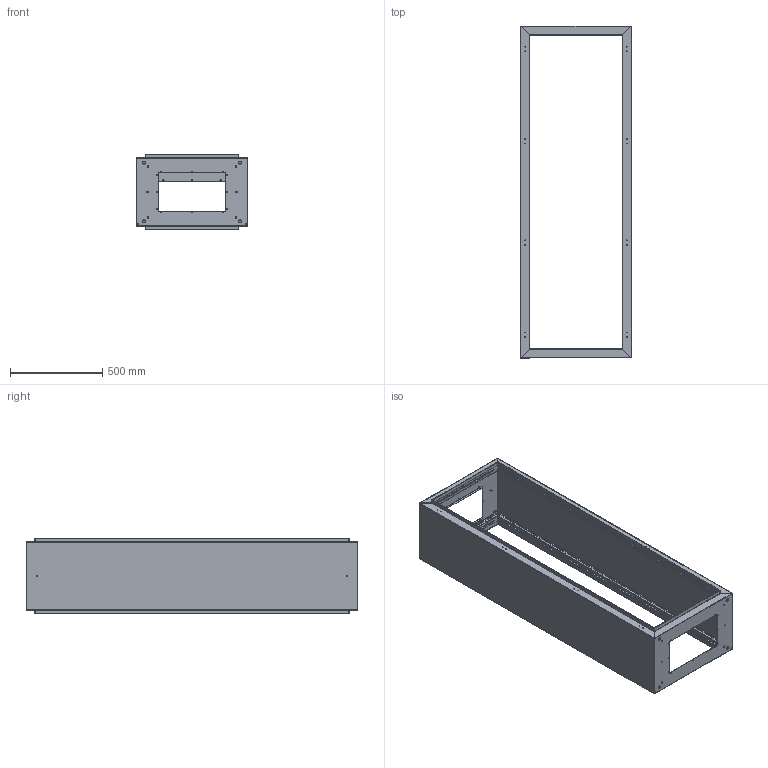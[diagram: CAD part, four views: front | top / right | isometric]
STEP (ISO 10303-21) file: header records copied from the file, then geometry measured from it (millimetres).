
FILE_DESCRIPTION (( 'STEP AP203' ), '1' );
FILE_NAME ('600x1800x400.STEP', '2021-11-11T16:40:01', ( '' ), ( '' ), 'SwSTEP 2.0', 'SolidWorks 2019', '' );
FILE_SCHEMA (( 'CONFIG_CONTROL_DESIGN' ));
Length unit declared in the file: millimetre
Products named in the file (4): 600x1800x400; Yan Kapak 1,5mm_monoblok_tekkapakrevize_PP 16.1004- 1800Yx400D YAN; Alt Kapak 1,5mm_monoblok_tekkapakrevize_PP 16.1018 600Gx400D ALT; Üst Kapak 1,5mm_monoblok_tekkapakrevize_PP 16.1009 600Gx400D šST
Assembly tree (4 placements, depth 2):
  600x1800x400
    Alt Kapak 1,5mm_monoblok_tekkapakrevize_PP 16.1018 600Gx400D ALT
    Üst Kapak 1,5mm_monoblok_tekkapakrevize_PP 16.1009 600Gx400D šST
    Yan Kapak 1,5mm_monoblok_tekkapakrevize_PP 16.1004- 1800Yx400D YAN  x2
Bounding box: 600 x 1800 x 411.92 mm (x, y, z)
Volume: 4331574.9 mm3; surface area: 5854775.5 mm2
Topology: 4 solids, 4 shells, 4652 faces, 13668 edges, 9032 vertices
Faces by surface type: plane 3020, cylinder 1616, bspline 16
Entity records: 101546 total; most frequent: CARTESIAN_POINT 17711, ORIENTED_EDGE 17200, DIRECTION 16462, EDGE_CURVE 8600, VECTOR 6560, LINE 6560, VERTEX_POINT 5672, AXIS2_PLACEMENT_3D 4951
